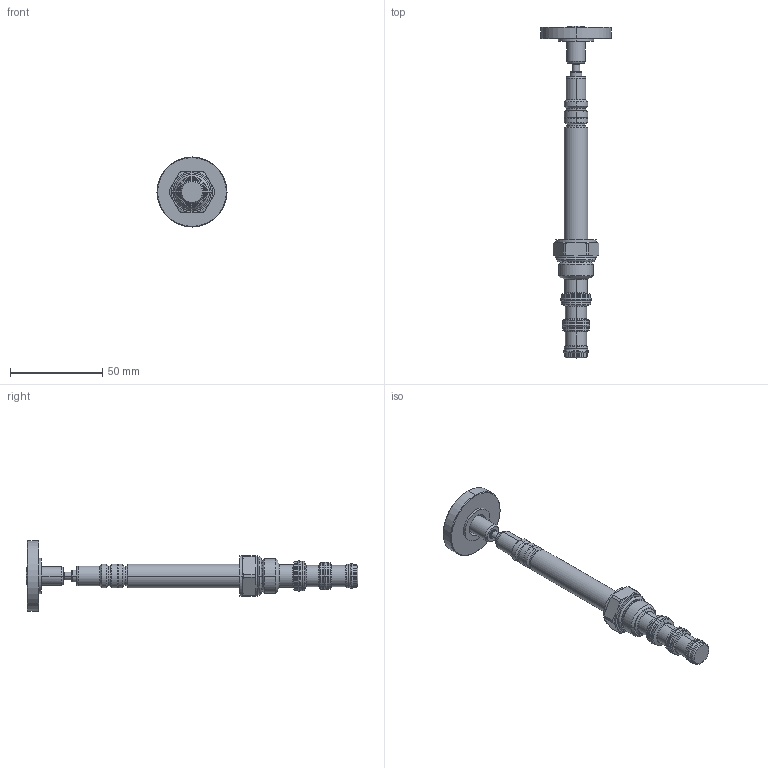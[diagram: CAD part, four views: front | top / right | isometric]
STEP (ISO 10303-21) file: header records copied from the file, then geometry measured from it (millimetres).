
FILE_DESCRIPTION((''),'2;1');
FILE_NAME('5003650_SW0003','2009-02-26T',('JCS'),(''),'PRO/ENGINEER BY PARAMETRIC TECHNOLOGY CORPORATION, 2008010','PRO/ENGINEER BY PARAMETRIC TECHNOLOGY CORPORATION, 2008010','');
FILE_SCHEMA(('CONFIG_CONTROL_DESIGN'));
Length unit declared in the file: inch
Products named in the file (1): 5003650_SW0003
Bounding box: 38.1 x 180.24 x 38.1 mm (x, y, z)
Volume: 31842.4 mm3; surface area: 14046 mm2
Topology: 6 solids, 6 shells, 291 faces, 636 edges, 372 vertices
Faces by surface type: cylinder 104, cone 82, torus 38, plane 35, revolution 32
Entity records: 8548 total; most frequent: CARTESIAN_POINT 1955, DIRECTION 1502, ORIENTED_EDGE 1272, EDGE_CURVE 636, AXIS2_PLACEMENT_3D 635, CIRCLE 376, VERTEX_POINT 372, EDGE_LOOP 318
